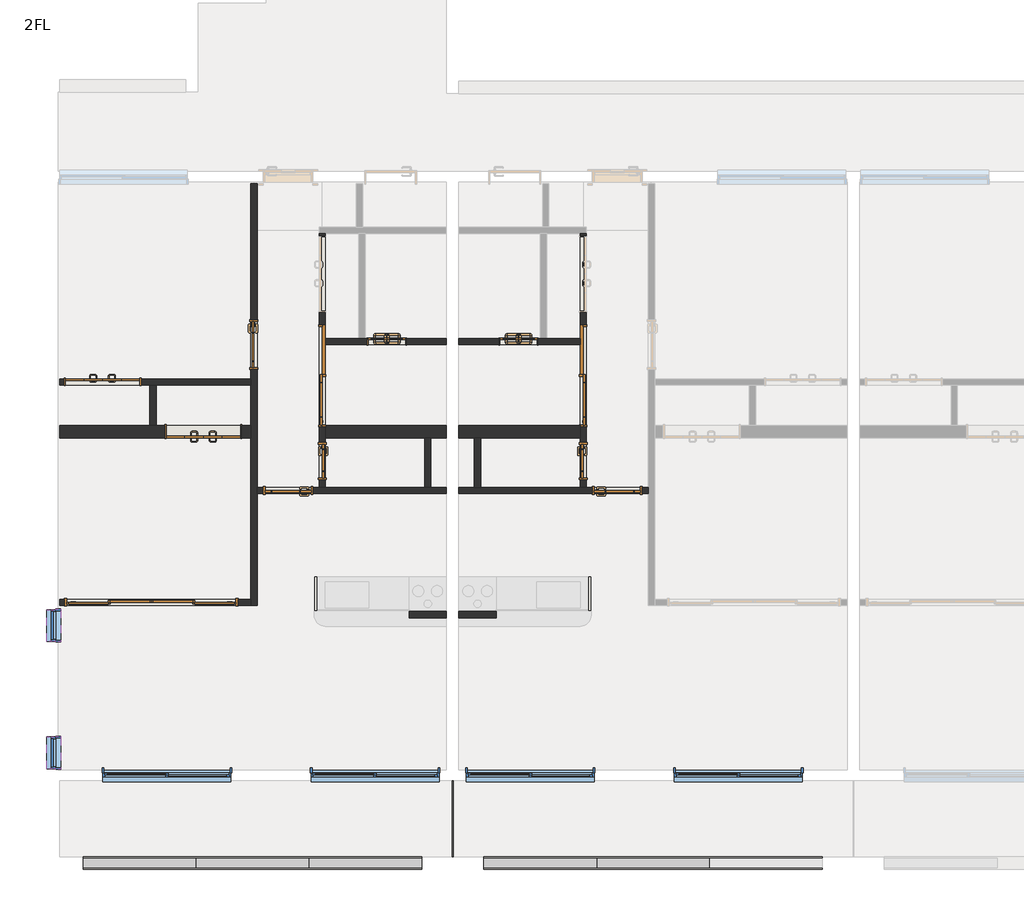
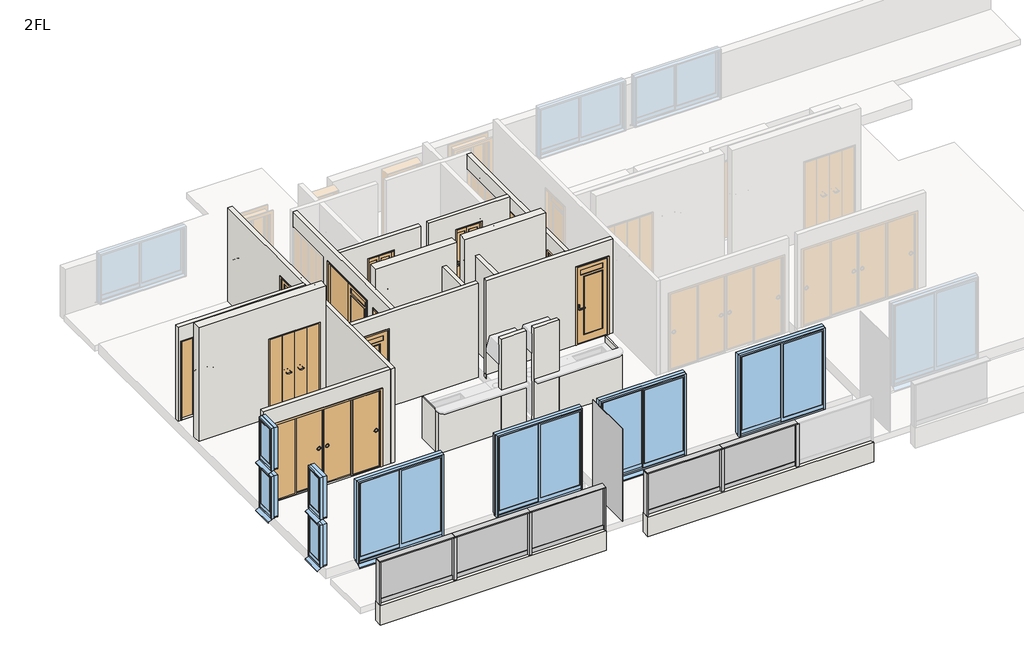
# One storey, part 1 of 3: 23 walls, 12 doors, 12 members, 8 windows, 6 plates.
"""IFC4 building model written with IfcOpenShell, lengths in millimetres."""

from ifc_helpers import new_model, si_unit, frame, origin, place, context, project, spatial, polyline, outline, extrude, faceted_brep, transform, mapped, element, save
from components import w1200h2000_98cacc9b, w1200h2000_6a144d60, w1600h2000_4c3c234a, w1600h2000_ca690e72, w2800h2000_670b855b, w600h2000_7f2747f4, w600h2000_6a266bef, w600h2000_94bb9c3c, w600h2000_8ea70a65, w800h2000_13e9f519, w800h2000_ccb03061, member_25x150_3f8205e2, member_25x150_f694351b, member_70x150_851c8a9b, plate_6aa9e5b9, plate_9f48129f, plate_365944b3, window_2000x2000_f1ff98da, window_450x1000_e0a5e2da

model = new_model("IFC4")

# Units and contexts
model_context = context("Model", 3, world=origin())
ifc_project = project(units=[si_unit("LENGTHUNIT", "METRE", prefix="MILLI")], contexts=[model_context])

# Site, building, storey
site = spatial("IfcSite", under=ifc_project)
building = spatial("IfcBuilding", under=site)
storey = spatial("IfcBuildingStorey", under=building, Name="2FL", Elevation=4000.0)

# Doors
placement = place(None, origin())
w1200h2000_shape = w1200h2000_98cacc9b(model_context)
element("IfcDoor", 1, ObjectType="木製折戸 : w1200h2000", at=placement, inside=storey, context=model_context, shape_type="MappedRepresentation", body=[
    mapped(w1200h2000_shape, transform((-8741.2187246, -9820.1171638, 4100.0), x_axis=(-1.0, 0.0, 0.0), y_axis=(0.0, -1.0, 0.0), z_axis=(0.0, 0.0, 1.0))),
])
w1200h2000_2_shape = w1200h2000_6a144d60(model_context)
element("IfcDoor", 2, ObjectType="木製折戸 : w1200h2000", at=placement, inside=storey, context=model_context, shape_type="MappedRepresentation", body=[
    mapped(w1200h2000_2_shape, transform((-10366.2187246, -9020.1171638, 4100.0), x_axis=(1.0, 0.0, 0.0), y_axis=(0.0, 1.0, 0.0), z_axis=(0.0, 0.0, 1.0))),
])
w1600h2000_shape = w1600h2000_4c3c234a(model_context)
element("IfcDoor", 3, ObjectType="片引戸CL2017 : w1600h2000", at=placement, inside=storey, context=model_context, shape_type="MappedRepresentation", body=[
    mapped(w1600h2000_shape, transform((-6828.7187246, -8920.1171638, 4100.0), x_axis=(0.0, -1.0, 0.0), y_axis=(1.0, 0.0, 0.0), z_axis=(0.0, 0.0, 1.0))),
])
w1600h2000_2_shape = w1600h2000_ca690e72(model_context)
element("IfcDoor", 4, ObjectType="片引戸CL2017 : w1600h2000", at=placement, inside=storey, context=model_context, shape_type="MappedRepresentation", body=[
    mapped(w1600h2000_2_shape, transform((-2628.7187246, -8920.1171638, 4100.0), x_axis=(0.0, -1.0, 0.0), y_axis=(1.0, 0.0, 0.0), z_axis=(0.0, 0.0, 1.0))),
])
w2800h2000_shape = w2800h2000_670b855b(model_context)
element("IfcDoor", 5, ObjectType="引違い 4 枚 2 溝_襖 : w2800h2000", at=placement, inside=storey, context=model_context, shape_type="MappedRepresentation", body=[
    mapped(w2800h2000_shape, transform((-9584.2542286, -12570.1171638, 4100.0), x_axis=(-1.0, 0.0, 0.0), y_axis=(0.0, -1.0, 0.0), z_axis=(0.0, 0.0, 1.0))),
])
w600h2000_shape = w600h2000_7f2747f4(model_context)
element("IfcDoor", 6, ObjectType="片開戸CL2058 : w600h2000", at=placement, inside=storey, context=model_context, shape_type="MappedRepresentation", body=[
    mapped(w600h2000_shape, transform((-6828.7187246, -10295.1171638, 4100.0), x_axis=(0.0, -1.0, 0.0), y_axis=(1.0, 0.0, 0.0), z_axis=(0.0, 0.0, 1.0))),
])
w600h2000_2_shape = w600h2000_6a266bef(model_context)
element("IfcDoor", 7, ObjectType="浴室折戸 : w600h2000", at=placement, inside=storey, context=model_context, shape_type="MappedRepresentation", body=[
    mapped(w600h2000_2_shape, transform((-5788.7187246, -8370.1171638, 4100.0), x_axis=(1.0, 0.0, 0.0), y_axis=(0.0, 1.0, 0.0), z_axis=(0.0, 0.0, 1.0))),
])
w600h2000_3_shape = w600h2000_94bb9c3c(model_context)
element("IfcDoor", 8, ObjectType="浴室折戸 : w600h2000", at=placement, inside=storey, context=model_context, shape_type="MappedRepresentation", body=[
    mapped(w600h2000_3_shape, transform((-3668.7187246, -8370.1171638, 4100.0), x_axis=(-1.0, 0.0, 0.0), y_axis=(0.0, -1.0, 0.0), z_axis=(0.0, 0.0, 1.0))),
])
w600h2000_4_shape = w600h2000_8ea70a65(model_context)
element("IfcDoor", 9, ObjectType="片開戸CL2058 : w600h2000", at=placement, inside=storey, context=model_context, shape_type="MappedRepresentation", body=[
    mapped(w600h2000_4_shape, transform((-2628.7187246, -10295.1171638, 4100.0), x_axis=(0.0, -1.0, 0.0), y_axis=(1.0, 0.0, 0.0), z_axis=(0.0, 0.0, 1.0))),
])
w800h2000_shape = w800h2000_13e9f519(model_context)
element("IfcDoor", 10, ObjectType="片開戸CL2058 : w800h2000", at=placement, inside=storey, context=model_context, shape_type="MappedRepresentation", body=[
    mapped(w800h2000_shape, transform((-7928.7187246, -8420.1171638, 4100.0), x_axis=(0.0, -1.0, 0.0), y_axis=(1.0, 0.0, 0.0), z_axis=(0.0, 0.0, 1.0))),
])
element("IfcDoor", 11, ObjectType="片開戸CL2058 : w800h2000", at=placement, inside=storey, context=model_context, shape_type="MappedRepresentation", body=[
    mapped(w800h2000_shape, transform((-2078.7187246, -10770.1171638, 4100.0), x_axis=(1.0, 0.0, 0.0), y_axis=(0.0, 1.0, 0.0), z_axis=(0.0, 0.0, 1.0))),
])
w800h2000_2_shape = w800h2000_ccb03061(model_context)
element("IfcDoor", 12, ObjectType="片開戸CL2058 : w800h2000", at=placement, inside=storey, context=model_context, shape_type="MappedRepresentation", body=[
    mapped(w800h2000_2_shape, transform((-7378.7187246, -10770.1171638, 4100.0), x_axis=(-1.0, 0.0, 0.0), y_axis=(0.0, -1.0, 0.0), z_axis=(0.0, 0.0, 1.0))),
])

# Members
member_25x150_shape = member_25x150_3f8205e2(model_context)
element("IfcMember", 13, ObjectType="長方形のマリオン : 25x150", at=placement, inside=storey, context=model_context, shape_type="MappedRepresentation", body=[
    mapped(member_25x150_shape, transform((-5228.7187246, -16770.1171638, 4000.0), x_axis=(1.0, 0.0, 0.0), y_axis=(0.0, -1.0, 0.0), z_axis=(0.0, 0.0, -1.0))),
])
element("IfcMember", 14, ObjectType="長方形のマリオン : 25x150", at=placement, inside=storey, context=model_context, shape_type="MappedRepresentation", body=[
    mapped(member_25x150_shape, transform((-10678.7187246, -16770.1171638, 5075.0), x_axis=(-1.0, 0.0, 0.0), y_axis=(0.0, -1.0, 0.0), z_axis=(0.0, 0.0, 1.0))),
])
element("IfcMember", 15, ObjectType="長方形のマリオン : 25x150", at=placement, inside=storey, context=model_context, shape_type="MappedRepresentation", body=[
    mapped(member_25x150_shape, transform((-4228.7187246, -16770.1171638, 5075.0), x_axis=(-1.0, 0.0, 0.0), y_axis=(0.0, -1.0, 0.0), z_axis=(0.0, 0.0, 1.0))),
])
member_25x150_2_shape = member_25x150_f694351b(model_context)
element("IfcMember", 16, ObjectType="長方形のマリオン : 25x150", at=placement, inside=storey, context=model_context, shape_type="MappedRepresentation", body=[
    mapped(member_25x150_2_shape, transform((-5228.7187246, -16770.1171638, 5100.0), x_axis=(0.0, 0.0, 1.0), y_axis=(0.0, -1.0, 0.0), z_axis=(1.0, 0.0, 0.0))),
])
element("IfcMember", 17, ObjectType="長方形のマリオン : 25x150", at=placement, inside=storey, context=model_context, shape_type="MappedRepresentation", body=[
    mapped(member_25x150_2_shape, transform((-8862.052058, -16770.1171638, 5100.0), x_axis=(0.0, 0.0, 1.0), y_axis=(0.0, -1.0, 0.0), z_axis=(1.0, 0.0, 0.0))),
])
element("IfcMember", 18, ObjectType="長方形のマリオン : 25x150", at=placement, inside=storey, context=model_context, shape_type="MappedRepresentation", body=[
    mapped(member_25x150_2_shape, transform((-2412.052058, -16770.1171638, 5100.0), x_axis=(0.0, 0.0, 1.0), y_axis=(0.0, -1.0, 0.0), z_axis=(1.0, 0.0, 0.0))),
])
element("IfcMember", 19, ObjectType="長方形のマリオン : 25x150", at=placement, inside=storey, context=model_context, shape_type="MappedRepresentation", body=[
    mapped(member_25x150_2_shape, transform((-7045.3853913, -16770.1171638, 5100.0), x_axis=(0.0, 0.0, 1.0), y_axis=(0.0, -1.0, 0.0), z_axis=(1.0, 0.0, 0.0))),
])
element("IfcMember", 20, ObjectType="長方形のマリオン : 25x150", at=placement, inside=storey, context=model_context, shape_type="MappedRepresentation", body=[
    mapped(member_25x150_2_shape, transform((-595.3853913, -16770.1171638, 5100.0), x_axis=(0.0, 0.0, 1.0), y_axis=(0.0, -1.0, 0.0), z_axis=(1.0, 0.0, 0.0))),
])
member_70x150_shape = member_70x150_851c8a9b(model_context)
element("IfcMember", 21, ObjectType="長方形のマリオン : 70x150", at=placement, inside=storey, context=model_context, shape_type="MappedRepresentation", body=[
    mapped(member_70x150_shape, transform((-8862.052058, -16770.1171638, 4000.0), x_axis=(1.0, 0.0, 0.0), y_axis=(0.0, -1.0, 0.0), z_axis=(0.0, 0.0, -1.0))),
])
element("IfcMember", 22, ObjectType="長方形のマリオン : 70x150", at=placement, inside=storey, context=model_context, shape_type="MappedRepresentation", body=[
    mapped(member_70x150_shape, transform((-7045.3853913, -16770.1171638, 4000.0), x_axis=(1.0, 0.0, 0.0), y_axis=(0.0, -1.0, 0.0), z_axis=(0.0, 0.0, -1.0))),
])
element("IfcMember", 23, ObjectType="長方形のマリオン : 70x150", at=placement, inside=storey, context=model_context, shape_type="MappedRepresentation", body=[
    mapped(member_70x150_shape, transform((-2412.052058, -16770.1171638, 4000.0), x_axis=(1.0, 0.0, 0.0), y_axis=(0.0, -1.0, 0.0), z_axis=(0.0, 0.0, -1.0))),
])
element("IfcMember", 24, ObjectType="長方形のマリオン : 70x150", at=placement, inside=storey, context=model_context, shape_type="MappedRepresentation", body=[
    mapped(member_70x150_shape, transform((-595.3853913, -16770.1171638, 4000.0), x_axis=(1.0, 0.0, 0.0), y_axis=(0.0, -1.0, 0.0), z_axis=(0.0, 0.0, -1.0))),
])

# Plates
plate_shape = plate_6aa9e5b9(model_context)
element("IfcPlate", 25, ObjectType="システム パネル : 標準", at=placement, inside=storey, context=model_context, shape_type="MappedRepresentation", body=[
    mapped(plate_shape, transform((-4728.7187246, -16056.9921638, 3950.0), x_axis=(0.0, -1.0, 0.0), y_axis=(1.0, 0.0, 0.0), z_axis=(0.0, 0.0, 1.0))),
])
plate_2_shape = plate_9f48129f(model_context)
element("IfcPlate", 26, ObjectType="r パネル FIX 下框付 : 框 H100", at=placement, inside=storey, context=model_context, shape_type="MappedRepresentation", body=[
    mapped(plate_2_shape, transform((-9775.3853913, -16770.1171638, 4000.0), x_axis=(1.0, 0.0, 0.0), y_axis=(0.0, 1.0, 0.0), z_axis=(0.0, 0.0, 1.0))),
])
element("IfcPlate", 27, ObjectType="r パネル FIX 下框付 : 框 H100", at=placement, inside=storey, context=model_context, shape_type="MappedRepresentation", body=[
    mapped(plate_2_shape, transform((-6132.052058, -16770.1171638, 4000.0), x_axis=(1.0, 0.0, 0.0), y_axis=(0.0, 1.0, 0.0), z_axis=(0.0, 0.0, 1.0))),
])
element("IfcPlate", 28, ObjectType="r パネル FIX 下框付 : 框 H100", at=placement, inside=storey, context=model_context, shape_type="MappedRepresentation", body=[
    mapped(plate_2_shape, transform((-3325.3853913, -16770.1171638, 4000.0), x_axis=(1.0, 0.0, 0.0), y_axis=(0.0, 1.0, 0.0), z_axis=(0.0, 0.0, 1.0))),
])
plate_3_shape = plate_365944b3(model_context)
element("IfcPlate", 29, ObjectType="r パネル FIX 下框付 : 框 H100", at=placement, inside=storey, context=model_context, shape_type="MappedRepresentation", body=[
    mapped(plate_3_shape, transform((-7953.7187246, -16770.1171638, 4000.0), x_axis=(1.0, 0.0, 0.0), y_axis=(0.0, 1.0, 0.0), z_axis=(0.0, 0.0, 1.0))),
])
element("IfcPlate", 30, ObjectType="r パネル FIX 下框付 : 框 H100", at=placement, inside=storey, context=model_context, shape_type="MappedRepresentation", body=[
    mapped(plate_3_shape, transform((-1503.7187246, -16770.1171638, 4000.0), x_axis=(1.0, 0.0, 0.0), y_axis=(0.0, 1.0, 0.0), z_axis=(0.0, 0.0, 1.0))),
])

# Walls
element("IfcWall", 31, ObjectType="内壁(R)RC200", at=placement, inside=storey, context=model_context, shape_type="Brep", body=[
    faceted_brep([(-11052.4687246, -9920.1171638, 4000.0), (-7978.7187246, -9920.1171638, 4000.0), (-7978.7187246, -9920.1171638, 7000.0), (-11052.4687246, -9920.1171638, 7000.0), (-9361.2187246, -9920.1171638, 6120.0), (-8121.2187246, -9920.1171638, 6120.0), (-8121.2187246, -9920.1171638, 4100.0), (-9361.2187246, -9920.1171638, 4100.0), (-11052.4687246, -9720.1171638, 4000.0), (-11052.4687246, -9720.1171638, 7000.0), (-7978.7187246, -9720.1171638, 7000.0), (-7978.7187246, -9720.1171638, 4000.0), (-9503.7187246, -9720.1171638, 4000.0), (-9603.7187246, -9720.1171638, 4000.0), (-9361.2187246, -9720.1171638, 6120.0), (-9361.2187246, -9720.1171638, 4100.0), (-8121.2187246, -9720.1171638, 4100.0), (-8121.2187246, -9720.1171638, 6120.0)], [[[0, 1, 2, 3], [4, 5, 6, 7]], [[8, 9, 10, 11, 12, 13], [14, 15, 16, 17]], [[1, 0, 8, 13, 12, 11]], [[3, 2, 10, 9]], [[15, 14, 4, 7]], [[16, 15, 7, 6]], [[17, 16, 6, 5]], [[14, 17, 5, 4]], [[0, 3, 9, 8]], [[2, 1, 11, 10]]]),
])
element("IfcWall", 32, ObjectType="内壁(R)RC200", at=placement, inside=storey, context=model_context, shape_type="Brep", body=[
    faceted_brep([(-6778.7187246, -9920.1171638, 4000.0), (-5178.7187246, -9920.1171638, 4000.0), (-5078.7187246, -9920.1171638, 4000.0), (-4828.7187246, -9920.1171638, 4000.0), (-4828.7187246, -9920.1171638, 7000.0), (-6778.7187246, -9920.1171638, 7000.0), (-6778.7187246, -9720.1171638, 4000.0), (-6778.7187246, -9720.1171638, 7000.0), (-4828.7187246, -9720.1171638, 7000.0), (-4828.7187246, -9720.1171638, 4000.0)], [[[0, 1, 2, 3, 4, 5]], [[6, 7, 8, 9]], [[3, 2, 1, 0, 6, 9]], [[5, 4, 8, 7]], [[0, 5, 7, 6]], [[4, 3, 9, 8]]]),
])
element("IfcWall", 33, ObjectType="内壁(R)RC200", at=placement, inside=storey, context=model_context, shape_type="Brep", body=[
    faceted_brep([(-2678.7187246, -9720.1171638, 4000.0), (-4628.7187246, -9720.1171638, 4000.0), (-4628.7187246, -9720.1171638, 7000.0), (-2678.7187246, -9720.1171638, 7000.0), (-2678.7187246, -9920.1171638, 4000.0), (-2678.7187246, -9920.1171638, 7000.0), (-4628.7187246, -9920.1171638, 7000.0), (-4628.7187246, -9920.1171638, 4000.0), (-4378.7187246, -9920.1171638, 4000.0), (-4278.7187246, -9920.1171638, 4000.0)], [[[0, 1, 2, 3]], [[4, 5, 6, 7, 8, 9]], [[1, 0, 4, 9, 8, 7]], [[3, 2, 6, 5]], [[0, 3, 5, 4]], [[2, 1, 7, 6]]]),
])
element("IfcWall", 34, ObjectType="(R)RC200", at=placement, inside=storey, context=model_context, shape_type="SweptSolid", body=[
    extrude(outline(polyline([(-5228.7187246, -16870.1171638), (-10678.7187246, -16870.1171638), (-10678.7187246, -16670.1171638), (-5228.7187246, -16670.1171638), (-5228.7187246, -16870.1171638)])), frame((0.0, 0.0, 3500.0), z_axis=(0.0, 0.0, 1.0), x_axis=(1.0, 0.0, 0.0)), (0.0, 0.0, 1.0), 500.0),
])
element("IfcWall", 35, ObjectType="(R)RC200", at=placement, inside=storey, context=model_context, shape_type="SweptSolid", body=[
    extrude(outline(polyline([(1221.2812754, -16870.1171638), (-4228.7187246, -16870.1171638), (-4228.7187246, -16670.1171638), (1221.2812754, -16670.1171638), (1221.2812754, -16870.1171638)])), frame((0.0, 0.0, 3500.0), z_axis=(0.0, 0.0, 1.0), x_axis=(1.0, 0.0, 0.0)), (0.0, 0.0, 1.0), 500.0),
])
element("IfcWall", 36, ObjectType="(F)30", at=placement, inside=storey, context=model_context, shape_type="SweptSolid", body=[
    extrude(outline(polyline([(-6951.1124404, -12720.1171638), (-6951.1124404, -12165.1171638), (-6921.1124404, -12165.1171638), (-6921.1124404, -12720.1171638), (-6951.1124404, -12720.1171638)])), frame((0.0, 0.0, 4100.0), z_axis=(0.0, 0.0, 1.0), x_axis=(1.0, 0.0, 0.0)), (0.0, 0.0, 1.0), 1060.0),
])
element("IfcWall", 37, ObjectType="(F)30", at=placement, inside=storey, context=model_context, shape_type="SweptSolid", body=[
    extrude(outline(polyline([(-2536.3250089, -12720.1171638), (-2536.3250089, -12165.1171638), (-2506.3250089, -12165.1171638), (-2506.3250089, -12720.1171638), (-2536.3250089, -12720.1171638)])), frame((0.0, 0.0, 4100.0), z_axis=(0.0, 0.0, 1.0), x_axis=(1.0, 0.0, 0.0)), (0.0, 0.0, 1.0), 1060.0),
])
element("IfcWall", 38, ObjectType="(L1)LGS100", at=placement, inside=storey, context=model_context, shape_type="Brep", body=[
    faceted_brep([(-11052.4687246, -9070.1171638, 4000.0), (-9603.7187246, -9070.1171638, 4000.0), (-9503.7187246, -9070.1171638, 4000.0), (-7978.7187246, -9070.1171638, 4000.0), (-7978.7187246, -9070.1171638, 6500.0), (-9503.7187246, -9070.1171638, 6500.0), (-9603.7187246, -9070.1171638, 6500.0), (-11052.4687246, -9070.1171638, 6500.0), (-9746.2187246, -9070.1171638, 6120.0), (-9746.2187246, -9070.1171638, 4100.0), (-10986.2187246, -9070.1171638, 4100.0), (-10986.2187246, -9070.1171638, 6120.0), (-7978.7187246, -8970.1171638, 4000.0), (-11052.4687246, -8970.1171638, 4000.0), (-11052.4687246, -8970.1171638, 6500.0), (-7978.7187246, -8970.1171638, 6500.0), (-9746.2187246, -8970.1171638, 4100.0), (-9746.2187246, -8970.1171638, 6120.0), (-10986.2187246, -8970.1171638, 6120.0), (-10986.2187246, -8970.1171638, 4100.0)], [[[0, 1, 2, 3, 4, 5, 6, 7], [8, 9, 10, 11]], [[12, 13, 14, 15], [16, 17, 18, 19]], [[3, 2, 1, 0, 13, 12]], [[7, 6, 5, 4, 15, 14]], [[4, 3, 12, 15]], [[8, 17, 16, 9]], [[9, 16, 19, 10]], [[17, 8, 11, 18]], [[18, 11, 10, 19]], [[0, 7, 14, 13]]]),
])
element("IfcWall", 39, ObjectType="(L1)LGS100", at=placement, inside=storey, context=model_context, shape_type="SweptSolid", body=[
    extrude(outline(polyline([(-9503.7187246, -9070.1171638), (-9503.7187246, -9720.1171638), (-9603.7187246, -9720.1171638), (-9603.7187246, -9070.1171638), (-9503.7187246, -9070.1171638)])), frame((0.0, 0.0, 4000.0), z_axis=(0.0, 0.0, 1.0), x_axis=(1.0, 0.0, 0.0)), (0.0, 0.0, 1.0), 2500.0),
])
element("IfcWall", 40, ObjectType="(L1)LGS100", at=placement, inside=storey, context=model_context, shape_type="Brep", body=[
    faceted_brep([(-7878.7187246, -12620.1171638, 4000.0), (-7878.7187246, -10820.1171638, 4000.0), (-7878.7187246, -10720.1171638, 4000.0), (-7878.7187246, -5826.3671638, 4000.0), (-7878.7187246, -5826.3671638, 6500.0), (-7878.7187246, -10720.1171638, 6500.0), (-7878.7187246, -10820.1171638, 6500.0), (-7878.7187246, -12620.1171638, 6500.0), (-7878.7187246, -8820.1171638, 4100.0), (-7878.7187246, -8820.1171638, 6100.0), (-7878.7187246, -8020.1171638, 6100.0), (-7878.7187246, -8020.1171638, 4100.0), (-7978.7187246, -12620.1171638, 4000.0), (-7978.7187246, -12620.1171638, 6500.0), (-7978.7187246, -12520.1171638, 6500.0), (-7978.7187246, -9070.1171638, 6500.0), (-7978.7187246, -8970.1171638, 6500.0), (-7978.7187246, -5826.3671638, 6500.0), (-7978.7187246, -5826.3671638, 4000.0), (-7978.7187246, -8970.1171638, 4000.0), (-7978.7187246, -9070.1171638, 4000.0), (-7978.7187246, -9720.1171638, 4000.0), (-7978.7187246, -9920.1171638, 4000.0), (-7978.7187246, -12520.1171638, 4000.0), (-7978.7187246, -8820.1171638, 4100.0), (-7978.7187246, -8020.1171638, 4100.0), (-7978.7187246, -8020.1171638, 6100.0), (-7978.7187246, -8820.1171638, 6100.0)], [[[0, 1, 2, 3, 4, 5, 6, 7], [8, 9, 10, 11]], [[12, 13, 14, 15, 16, 17, 18, 19, 20, 21, 22, 23], [24, 25, 26, 27]], [[3, 2, 1, 0, 12, 23, 22, 21, 20, 19, 18]], [[7, 6, 5, 4, 17, 16, 15, 14, 13]], [[0, 7, 13, 12]], [[9, 8, 24, 27]], [[10, 9, 27, 26]], [[11, 10, 26, 25]], [[8, 11, 25, 24]], [[4, 3, 18, 17]]]),
])
element("IfcWall", 41, ObjectType="(L1)LGS100", at=placement, inside=storey, context=model_context, shape_type="Brep", body=[
    faceted_brep([(-6778.7187246, -8420.1171638, 4000.0), (-4828.7187246, -8420.1171638, 4000.0), (-4828.7187246, -8420.1171638, 6500.0), (-6778.7187246, -8420.1171638, 6500.0), (-5468.7187246, -8420.1171638, 6120.0), (-5468.7187246, -8420.1171638, 4100.0), (-6108.7187246, -8420.1171638, 4100.0), (-6108.7187246, -8420.1171638, 6120.0), (-6778.7187246, -8320.1171638, 4000.0), (-6778.7187246, -8320.1171638, 6500.0), (-6238.7187246, -8320.1171638, 6500.0), (-6138.7187246, -8320.1171638, 6500.0), (-4828.7187246, -8320.1171638, 6500.0), (-4828.7187246, -8320.1171638, 4000.0), (-6138.7187246, -8320.1171638, 4000.0), (-6238.7187246, -8320.1171638, 4000.0), (-5468.7187246, -8320.1171638, 6120.0), (-6108.7187246, -8320.1171638, 6120.0), (-6108.7187246, -8320.1171638, 4100.0), (-5468.7187246, -8320.1171638, 4100.0)], [[[0, 1, 2, 3], [4, 5, 6, 7]], [[8, 9, 10, 11, 12, 13, 14, 15], [16, 17, 18, 19]], [[1, 0, 8, 15, 14, 13]], [[3, 2, 12, 11, 10, 9]], [[0, 3, 9, 8]], [[5, 4, 16, 19]], [[6, 5, 19, 18]], [[7, 6, 18, 17]], [[4, 7, 17, 16]], [[2, 1, 13, 12]]]),
])
element("IfcWall", 42, ObjectType="(L1)LGS100", at=placement, inside=storey, context=model_context, shape_type="Brep", body=[
    faceted_brep([(-6778.7187246, -10720.1171638, 4000.0), (-6778.7187246, -9920.1171638, 4000.0), (-6778.7187246, -9720.1171638, 4000.0), (-6778.7187246, -8420.1171638, 4000.0), (-6778.7187246, -8320.1171638, 4000.0), (-6778.7187246, -6630.1171638, 4000.0), (-6778.7187246, -6630.1171638, 6500.0), (-6778.7187246, -8320.1171638, 6500.0), (-6778.7187246, -8420.1171638, 6500.0), (-6778.7187246, -10720.1171638, 6500.0), (-6778.7187246, -10595.1171638, 4100.0), (-6778.7187246, -10595.1171638, 6100.0), (-6778.7187246, -9995.1171638, 6100.0), (-6778.7187246, -9995.1171638, 4100.0), (-6778.7187246, -6660.1171638, 4100.0), (-6778.7187246, -7900.1171638, 4100.0), (-6778.7187246, -7900.1171638, 6120.0), (-6778.7187246, -6660.1171638, 6120.0), (-6778.7187246, -9745.1171638, 4100.0), (-6778.7187246, -9745.1171638, 6140.0), (-6778.7187246, -8095.1171638, 6140.0), (-6778.7187246, -8095.1171638, 4100.0), (-6878.7187246, -6630.1171638, 4000.0), (-6878.7187246, -10720.1171638, 4000.0), (-6878.7187246, -10720.1171638, 6500.0), (-6878.7187246, -6630.1171638, 6500.0), (-6878.7187246, -10595.1171638, 6100.0), (-6878.7187246, -10595.1171638, 4100.0), (-6878.7187246, -9995.1171638, 4100.0), (-6878.7187246, -9995.1171638, 6100.0), (-6878.7187246, -7900.1171638, 4100.0), (-6878.7187246, -6660.1171638, 4100.0), (-6878.7187246, -6660.1171638, 6120.0), (-6878.7187246, -7900.1171638, 6120.0), (-6878.7187246, -9745.1171638, 4100.0), (-6878.7187246, -8095.1171638, 4100.0), (-6878.7187246, -8095.1171638, 6140.0), (-6878.7187246, -9745.1171638, 6140.0)], [[[0, 1, 2, 3, 4, 5, 6, 7, 8, 9], [10, 11, 12, 13], [14, 15, 16, 17], [18, 19, 20, 21]], [[22, 23, 24, 25], [26, 27, 28, 29], [30, 31, 32, 33], [34, 35, 36, 37]], [[5, 4, 3, 2, 1, 0, 23, 22]], [[9, 8, 7, 6, 25, 24]], [[0, 9, 24, 23]], [[11, 10, 27, 26]], [[12, 11, 26, 29]], [[13, 12, 29, 28]], [[10, 13, 28, 27]], [[14, 31, 30, 15]], [[15, 30, 33, 16]], [[16, 33, 32, 17]], [[19, 18, 34, 37]], [[20, 19, 37, 36]], [[21, 20, 36, 35]], [[18, 21, 35, 34]], [[31, 14, 17, 32]], [[6, 5, 22, 25]]]),
])
element("IfcWall", 43, ObjectType="(L1)LGS100", at=placement, inside=storey, context=model_context, shape_type="SweptSolid", body=[
    extrude(outline(polyline([(-5078.7187246, -9920.1171638), (-5078.7187246, -10720.1171638), (-5178.7187246, -10720.1171638), (-5178.7187246, -9920.1171638), (-5078.7187246, -9920.1171638)])), frame((0.0, 0.0, 4000.0), z_axis=(0.0, 0.0, 1.0), x_axis=(1.0, 0.0, 0.0)), (0.0, 0.0, 1.0), 2500.0),
])
element("IfcWall", 44, ObjectType="(L1)LGS100", at=placement, inside=storey, context=model_context, shape_type="Brep", body=[
    faceted_brep([(-7878.7187246, -10820.1171638, 4000.0), (-4828.7187246, -10820.1171638, 4000.0), (-4828.7187246, -10820.1171638, 6500.0), (-7878.7187246, -10820.1171638, 6500.0), (-7778.7187246, -10820.1171638, 4100.0), (-7778.7187246, -10820.1171638, 6100.0), (-6978.7187246, -10820.1171638, 6100.0), (-6978.7187246, -10820.1171638, 4100.0), (-4828.7187246, -10720.1171638, 4000.0), (-5078.7187246, -10720.1171638, 4000.0), (-5178.7187246, -10720.1171638, 4000.0), (-6778.7187246, -10720.1171638, 4000.0), (-6878.7187246, -10720.1171638, 4000.0), (-7878.7187246, -10720.1171638, 4000.0), (-7878.7187246, -10720.1171638, 6500.0), (-6878.7187246, -10720.1171638, 6500.0), (-6778.7187246, -10720.1171638, 6500.0), (-5178.7187246, -10720.1171638, 6500.0), (-5078.7187246, -10720.1171638, 6500.0), (-4828.7187246, -10720.1171638, 6500.0), (-7778.7187246, -10720.1171638, 6100.0), (-7778.7187246, -10720.1171638, 4100.0), (-6978.7187246, -10720.1171638, 4100.0), (-6978.7187246, -10720.1171638, 6100.0)], [[[0, 1, 2, 3], [4, 5, 6, 7]], [[8, 9, 10, 11, 12, 13, 14, 15, 16, 17, 18, 19], [20, 21, 22, 23]], [[1, 0, 13, 12, 11, 10, 9, 8]], [[3, 2, 19, 18, 17, 16, 15, 14]], [[0, 3, 14, 13]], [[4, 21, 20, 5]], [[5, 20, 23, 6]], [[6, 23, 22, 7]], [[21, 4, 7, 22]], [[2, 1, 8, 19]]]),
])
element("IfcWall", 45, ObjectType="(L1)LGS100", at=placement, inside=storey, context=model_context, shape_type="SweptSolid", body=[
    extrude(outline(polyline([(4000.0, -11052.4687246), (4000.0, -7978.7187246), (6500.0, -7978.7187246), (6500.0, -11052.4687246), (4000.0, -11052.4687246)]), holes=[polyline([(6100.0, -10978.7187246), (6100.0, -8178.7187246), (4100.0, -8178.7187246), (4100.0, -10978.7187246), (6100.0, -10978.7187246)])]), frame((0.0, -12620.1171638, 0.0), z_axis=(0.0, 1.0, 0.0), x_axis=(0.0, 0.0, 1.0)), (0.0, 0.0, 1.0), 100.0),
])
element("IfcWall", 46, ObjectType="(L1)LGS100", at=placement, inside=storey, context=model_context, shape_type="Brep", body=[
    faceted_brep([(-2678.7187246, -8320.1171638, 4000.0), (-3218.7187246, -8320.1171638, 4000.0), (-3318.7187246, -8320.1171638, 4000.0), (-4628.7187246, -8320.1171638, 4000.0), (-4628.7187246, -8320.1171638, 6500.0), (-3318.7187246, -8320.1171638, 6500.0), (-3218.7187246, -8320.1171638, 6500.0), (-2678.7187246, -8320.1171638, 6500.0), (-3988.7187246, -8320.1171638, 6120.0), (-3988.7187246, -8320.1171638, 4100.0), (-3348.7187246, -8320.1171638, 4100.0), (-3348.7187246, -8320.1171638, 6120.0), (-2678.7187246, -8420.1171638, 4000.0), (-2678.7187246, -8420.1171638, 6500.0), (-4628.7187246, -8420.1171638, 6500.0), (-4628.7187246, -8420.1171638, 4000.0), (-3988.7187246, -8420.1171638, 6120.0), (-3348.7187246, -8420.1171638, 6120.0), (-3348.7187246, -8420.1171638, 4100.0), (-3988.7187246, -8420.1171638, 4100.0)], [[[0, 1, 2, 3, 4, 5, 6, 7], [8, 9, 10, 11]], [[12, 13, 14, 15], [16, 17, 18, 19]], [[3, 2, 1, 0, 12, 15]], [[7, 6, 5, 4, 14, 13]], [[0, 7, 13, 12]], [[9, 8, 16, 19]], [[10, 9, 19, 18]], [[11, 10, 18, 17]], [[8, 11, 17, 16]], [[4, 3, 15, 14]]]),
])
element("IfcWall", 47, ObjectType="(L1)LGS100", at=placement, inside=storey, context=model_context, shape_type="Brep", body=[
    faceted_brep([(-2578.7187246, -10720.1171638, 4000.0), (-2578.7187246, -6630.1171638, 4000.0), (-2578.7187246, -6630.1171638, 6500.0), (-2578.7187246, -10720.1171638, 6500.0), (-2578.7187246, -10595.1171638, 4100.0), (-2578.7187246, -10595.1171638, 6100.0), (-2578.7187246, -9995.1171638, 6100.0), (-2578.7187246, -9995.1171638, 4100.0), (-2578.7187246, -6660.1171638, 4100.0), (-2578.7187246, -7900.1171638, 4100.0), (-2578.7187246, -7900.1171638, 6120.0), (-2578.7187246, -6660.1171638, 6120.0), (-2578.7187246, -9745.1171638, 4100.0), (-2578.7187246, -9745.1171638, 6140.0), (-2578.7187246, -8095.1171638, 6140.0), (-2578.7187246, -8095.1171638, 4100.0), (-2678.7187246, -6630.1171638, 4000.0), (-2678.7187246, -8320.1171638, 4000.0), (-2678.7187246, -8420.1171638, 4000.0), (-2678.7187246, -9720.1171638, 4000.0), (-2678.7187246, -9920.1171638, 4000.0), (-2678.7187246, -10720.1171638, 4000.0), (-2678.7187246, -10720.1171638, 6500.0), (-2678.7187246, -8420.1171638, 6500.0), (-2678.7187246, -8320.1171638, 6500.0), (-2678.7187246, -6630.1171638, 6500.0), (-2678.7187246, -10595.1171638, 6100.0), (-2678.7187246, -10595.1171638, 4100.0), (-2678.7187246, -9995.1171638, 4100.0), (-2678.7187246, -9995.1171638, 6100.0), (-2678.7187246, -7900.1171638, 4100.0), (-2678.7187246, -6660.1171638, 4100.0), (-2678.7187246, -6660.1171638, 6120.0), (-2678.7187246, -7900.1171638, 6120.0), (-2678.7187246, -9745.1171638, 4100.0), (-2678.7187246, -8095.1171638, 4100.0), (-2678.7187246, -8095.1171638, 6140.0), (-2678.7187246, -9745.1171638, 6140.0)], [[[0, 1, 2, 3], [4, 5, 6, 7], [8, 9, 10, 11], [12, 13, 14, 15]], [[16, 17, 18, 19, 20, 21, 22, 23, 24, 25], [26, 27, 28, 29], [30, 31, 32, 33], [34, 35, 36, 37]], [[1, 0, 21, 20, 19, 18, 17, 16]], [[3, 2, 25, 24, 23, 22]], [[0, 3, 22, 21]], [[5, 4, 27, 26]], [[6, 5, 26, 29]], [[7, 6, 29, 28]], [[4, 7, 28, 27]], [[8, 31, 30, 9]], [[9, 30, 33, 10]], [[10, 33, 32, 11]], [[13, 12, 34, 37]], [[14, 13, 37, 36]], [[15, 14, 36, 35]], [[12, 15, 35, 34]], [[31, 8, 11, 32]], [[2, 1, 16, 25]]]),
])
element("IfcWall", 48, ObjectType="(L1)LGS100", at=placement, inside=storey, context=model_context, shape_type="SweptSolid", body=[
    extrude(outline(polyline([(-4278.7187246, -9920.1171638), (-4278.7187246, -10720.1171638), (-4378.7187246, -10720.1171638), (-4378.7187246, -9920.1171638), (-4278.7187246, -9920.1171638)])), frame((0.0, 0.0, 4000.0), z_axis=(0.0, 0.0, 1.0), x_axis=(1.0, 0.0, 0.0)), (0.0, 0.0, 1.0), 2500.0),
])
element("IfcWall", 49, ObjectType="(L1)LGS100", at=placement, inside=storey, context=model_context, shape_type="Brep", body=[
    faceted_brep([(-1578.7187246, -10720.1171638, 4000.0), (-2578.7187246, -10720.1171638, 4000.0), (-2678.7187246, -10720.1171638, 4000.0), (-4278.7187246, -10720.1171638, 4000.0), (-4378.7187246, -10720.1171638, 4000.0), (-4628.7187246, -10720.1171638, 4000.0), (-4628.7187246, -10720.1171638, 6500.0), (-4378.7187246, -10720.1171638, 6500.0), (-4278.7187246, -10720.1171638, 6500.0), (-2678.7187246, -10720.1171638, 6500.0), (-2578.7187246, -10720.1171638, 6500.0), (-1578.7187246, -10720.1171638, 6500.0), (-1678.7187246, -10720.1171638, 4100.0), (-1678.7187246, -10720.1171638, 6100.0), (-2478.7187246, -10720.1171638, 6100.0), (-2478.7187246, -10720.1171638, 4100.0), (-4628.7187246, -10820.1171638, 4000.0), (-1578.7187246, -10820.1171638, 4000.0), (-1578.7187246, -10820.1171638, 6500.0), (-4628.7187246, -10820.1171638, 6500.0), (-1678.7187246, -10820.1171638, 6100.0), (-1678.7187246, -10820.1171638, 4100.0), (-2478.7187246, -10820.1171638, 4100.0), (-2478.7187246, -10820.1171638, 6100.0)], [[[0, 1, 2, 3, 4, 5, 6, 7, 8, 9, 10, 11], [12, 13, 14, 15]], [[16, 17, 18, 19], [20, 21, 22, 23]], [[5, 4, 3, 2, 1, 0, 17, 16]], [[11, 10, 9, 8, 7, 6, 19, 18]], [[0, 11, 18, 17]], [[12, 21, 20, 13]], [[13, 20, 23, 14]], [[14, 23, 22, 15]], [[21, 12, 15, 22]], [[6, 5, 16, 19]]]),
])
element("IfcWall", 50, ObjectType="(L1)LGS100", at=placement, inside=storey, context=model_context, shape_type="Brep", body=[
    faceted_brep([(-4828.7187246, -12720.1171638, 4000.0), (-5428.7187246, -12720.1171638, 4000.0), (-5428.7187246, -12720.1171638, 5160.0), (-5428.7187246, -12720.1171638, 6500.0), (-4828.7187246, -12720.1171638, 6500.0), (-4828.7187246, -12820.1171638, 4000.0), (-4828.7187246, -12820.1171638, 6500.0), (-5428.7187246, -12820.1171638, 6500.0), (-5428.7187246, -12820.1171638, 5160.0), (-5428.7187246, -12820.1171638, 4000.0)], [[[0, 1, 2, 3, 4]], [[5, 6, 7, 8, 9]], [[1, 0, 5, 9]], [[3, 2, 1, 9, 8, 7]], [[4, 3, 7, 6]], [[0, 4, 6, 5]]]),
])
element("IfcWall", 51, ObjectType="(L1)LGS100", at=placement, inside=storey, context=model_context, shape_type="Brep", body=[
    faceted_brep([(-6951.1124404, -12820.1171638, 4000.0), (-5428.7187246, -12820.1171638, 4000.0), (-5428.7187246, -12820.1171638, 5160.0), (-6951.1124404, -12820.1171638, 5160.0), (-6951.1124404, -12720.1171638, 4000.0), (-6951.1124404, -12720.1171638, 4100.0), (-6951.1124404, -12720.1171638, 5160.0), (-6921.1124404, -12720.1171638, 5160.0), (-5428.7187246, -12720.1171638, 5160.0), (-5428.7187246, -12720.1171638, 4000.0)], [[[0, 1, 2, 3]], [[4, 5, 6, 7, 8, 9]], [[1, 0, 4, 9]], [[2, 1, 9, 8]], [[3, 2, 8, 7, 6]], [[0, 3, 6, 5, 4]]]),
])
element("IfcWall", 52, ObjectType="(L1)LGS100", at=placement, inside=storey, context=model_context, shape_type="Brep", body=[
    faceted_brep([(-4628.7187246, -12820.1171638, 4000.0), (-4028.7187246, -12820.1171638, 4000.0), (-4028.7187246, -12820.1171638, 5160.0), (-4028.7187246, -12820.1171638, 6500.0), (-4628.7187246, -12820.1171638, 6500.0), (-4628.7187246, -12720.1171638, 4000.0), (-4628.7187246, -12720.1171638, 6500.0), (-4028.7187246, -12720.1171638, 6500.0), (-4028.7187246, -12720.1171638, 5160.0), (-4028.7187246, -12720.1171638, 4000.0)], [[[0, 1, 2, 3, 4]], [[5, 6, 7, 8, 9]], [[1, 0, 5, 9]], [[3, 2, 1, 9, 8, 7]], [[4, 3, 7, 6]], [[0, 4, 6, 5]]]),
])
element("IfcWall", 53, ObjectType="(L1)LGS100", at=placement, inside=storey, context=model_context, shape_type="Brep", body=[
    faceted_brep([(-2506.3250089, -12720.1171638, 4000.0), (-4028.7187246, -12720.1171638, 4000.0), (-4028.7187246, -12720.1171638, 5160.0), (-2536.3250089, -12720.1171638, 5160.0), (-2506.3250089, -12720.1171638, 5160.0), (-2506.3250089, -12720.1171638, 4100.0), (-2506.3250089, -12820.1171638, 4000.0), (-2506.3250089, -12820.1171638, 5160.0), (-4028.7187246, -12820.1171638, 5160.0), (-4028.7187246, -12820.1171638, 4000.0)], [[[0, 1, 2, 3, 4, 5]], [[6, 7, 8, 9]], [[1, 0, 6, 9]], [[2, 1, 9, 8]], [[4, 3, 2, 8, 7]], [[0, 5, 4, 7, 6]]]),
])

# Windows
window_2000x2000_shape = window_2000x2000_f1ff98da(model_context)
element("IfcWindow", 54, ObjectType="鋼製_一般枠_引違い-二枚 : 2000x2000", at=placement, inside=storey, context=model_context, shape_type="MappedRepresentation", body=[
    mapped(window_2000x2000_shape, transform((-9328.7187246, -15343.8671638, 3200.0), x_axis=(-1.0, 0.0, 0.0), y_axis=(0.0, -1.0, 0.0), z_axis=(0.0, 0.0, 1.0))),
])
element("IfcWindow", 55, ObjectType="鋼製_一般枠_引違い-二枚 : 2000x2000", at=placement, inside=storey, context=model_context, shape_type="MappedRepresentation", body=[
    mapped(window_2000x2000_shape, transform((-5978.7187246, -15343.8671638, 3200.0), x_axis=(-1.0, 0.0, 0.0), y_axis=(0.0, -1.0, 0.0), z_axis=(0.0, 0.0, 1.0))),
])
element("IfcWindow", 56, ObjectType="鋼製_一般枠_引違い-二枚 : 2000x2000", at=placement, inside=storey, context=model_context, shape_type="MappedRepresentation", body=[
    mapped(window_2000x2000_shape, transform((-128.7187246, -15343.8671638, 3200.0), x_axis=(-1.0, 0.0, 0.0), y_axis=(0.0, -1.0, 0.0), z_axis=(0.0, 0.0, 1.0))),
])
element("IfcWindow", 57, ObjectType="鋼製_一般枠_引違い-二枚 : 2000x2000", at=placement, inside=storey, context=model_context, shape_type="MappedRepresentation", body=[
    mapped(window_2000x2000_shape, transform((-3478.7187246, -15343.8671638, 3200.0), x_axis=(-1.0, 0.0, 0.0), y_axis=(0.0, -1.0, 0.0), z_axis=(0.0, 0.0, 1.0))),
])
window_450x1000_shape = window_450x1000_e0a5e2da(model_context)
element("IfcWindow", 58, ObjectType="鋼製_一般枠_嵌殺し : 450x1000", at=placement, inside=storey, context=model_context, shape_type="MappedRepresentation", body=[
    mapped(window_450x1000_shape, transform((-11152.4687246, -14995.1171638, 3010.0), x_axis=(0.0, 1.0, 0.0), y_axis=(-1.0, 0.0, 0.0), z_axis=(0.0, 0.0, 1.0))),
])
element("IfcWindow", 59, ObjectType="鋼製_一般枠_嵌殺し : 450x1000", at=placement, inside=storey, context=model_context, shape_type="MappedRepresentation", body=[
    mapped(window_450x1000_shape, transform((-11152.4687246, -12945.1171638, 3010.0), x_axis=(0.0, 1.0, 0.0), y_axis=(-1.0, 0.0, 0.0), z_axis=(0.0, 0.0, 1.0))),
])
element("IfcWindow", 60, ObjectType="鋼製_一般枠_嵌殺し : 450x1000", at=placement, inside=storey, context=model_context, shape_type="MappedRepresentation", body=[
    mapped(window_450x1000_shape, transform((-11152.4687246, -14995.1171638, 4230.0), x_axis=(0.0, 1.0, 0.0), y_axis=(-1.0, 0.0, 0.0), z_axis=(0.0, 0.0, 1.0))),
])
element("IfcWindow", 61, ObjectType="鋼製_一般枠_嵌殺し : 450x1000", at=placement, inside=storey, context=model_context, shape_type="MappedRepresentation", body=[
    mapped(window_450x1000_shape, transform((-11152.4687246, -12945.1171638, 4230.0), x_axis=(0.0, 1.0, 0.0), y_axis=(-1.0, 0.0, 0.0), z_axis=(0.0, 0.0, 1.0))),
])

save(model, "model.ifc")
